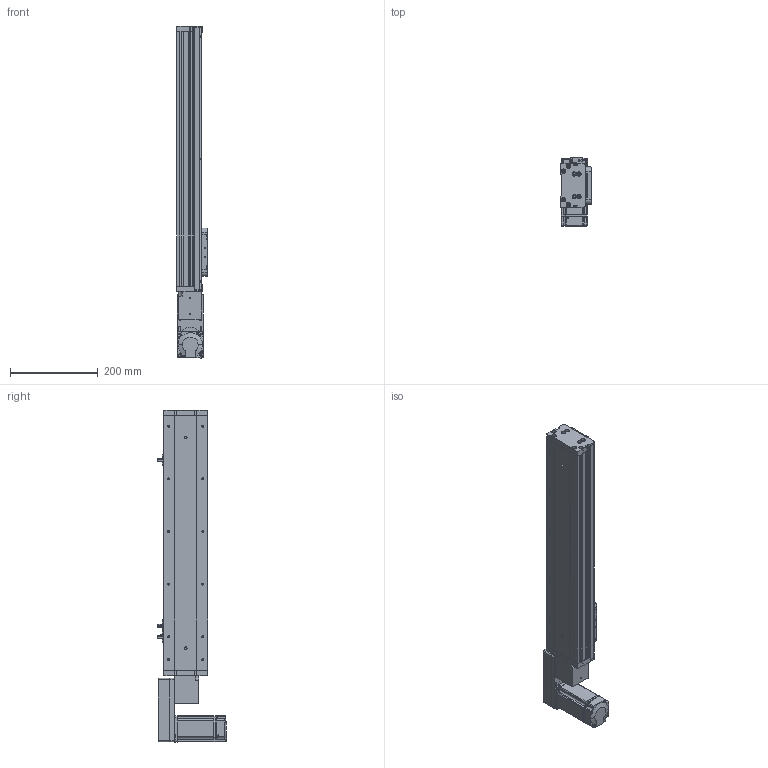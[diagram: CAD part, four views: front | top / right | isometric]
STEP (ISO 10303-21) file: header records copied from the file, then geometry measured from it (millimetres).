
FILE_DESCRIPTION (( 'STEP AP214' ), '1' );
FILE_NAME ('KSD100B-S400-MLB-CR.STEP', '2019-09-06T07:40:56', ( '微软用户' ), ( '微软中国' ), 'SwSTEP 2.0', 'SolidWorks 2014', '' );
FILE_SCHEMA (( 'AUTOMOTIVE_DESIGN' ));
Length unit declared in the file: millimetre
Products named in the file (15): 100宽马达安装板连板上下折丝杆同步带; 感应片100宽全封闭; U倰嫖萇EEㄜSX672; 100宽马达安装板同步带左; 100遵鎮湛假蚾啣蜊; 100宽端板同步带全封闭; 100宽滚珠螺姆安装板1防护罩; 100宽滚珠螺姆安装板1; MHMD042G1CA_2_03; 100遵裔啣揤啣; 100遵裔啣400俴最; 100宽侧板350行程同步带; 100宽底板全封闭350行程同步带; KSD100B-S400-MLB-CR; 悵誘欶奻狟殏
Assembly tree (18 placements, depth 2):
  KSD100B-S400-MLB-CR
    100宽底板全封闭350行程同步带
    100宽侧板350行程同步带  x2
    100遵裔啣400俴最
    100遵裔啣揤啣  x2
    100宽滚珠螺姆安装板1
    100宽滚珠螺姆安装板1防护罩
    100宽端板同步带全封闭
    100遵鎮湛假蚾啣蜊
    100宽马达安装板同步带左
    U倰嫖萇EEㄜSX672  x3
    感应片100宽全封闭
    100宽马达安装板连板上下折丝杆同步带
    悵誘欶奻狟殏
    MHMD042G1CA_2_03
Bounding box: 70 x 156.2 x 757 mm (x, y, z)
Volume: 1434994.4 mm3; surface area: 659744.1 mm2
Topology: 17 solids, 18 shells, 1645 faces, 4584 edges, 2965 vertices
Faces by surface type: plane 729, cylinder 721, cone 175, bspline 20
Entity records: 58280 total; most frequent: CARTESIAN_POINT 8784, DIRECTION 7972, ORIENTED_EDGE 7392, EDGE_CURVE 3768, AXIS2_PLACEMENT_3D 2855, VERTEX_POINT 2503, LINE 2262, VECTOR 2262
